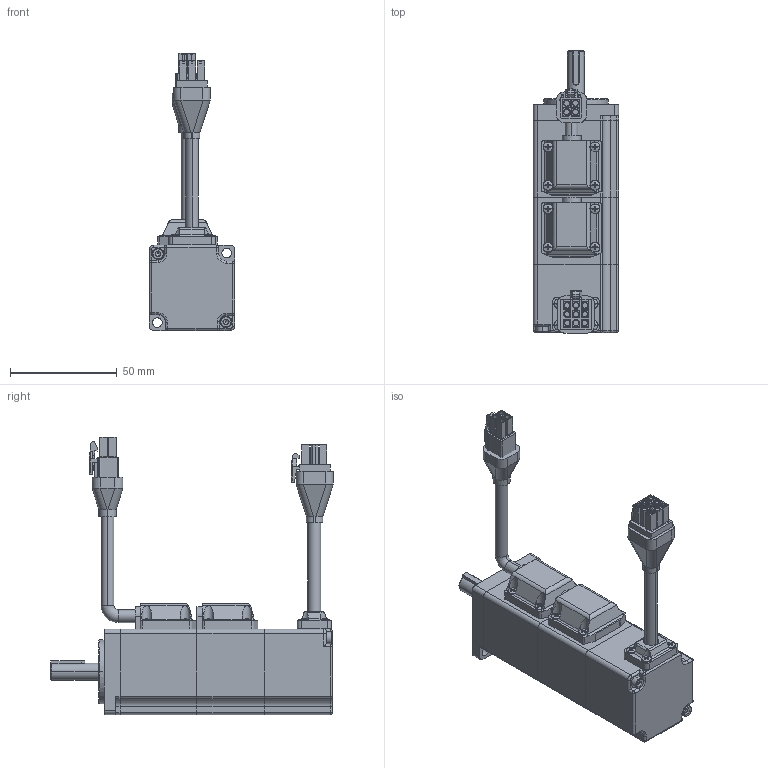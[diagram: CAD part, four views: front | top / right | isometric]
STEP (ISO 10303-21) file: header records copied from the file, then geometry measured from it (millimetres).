
FILE_DESCRIPTION (( 'STEP AP203' ), '1' );
FILE_NAME ('L-50+brake.STEP', '2019-08-21T06:43:03', ( '1' ), ( 'MideaGroup IT' ), 'SwSTEP 2.0', 'SolidWorks 2012', '' );
FILE_SCHEMA (( 'CONFIG_CONTROL_DESIGN' ));
Length unit declared in the file: millimetre
Products named in the file (35): L-50+brake; 雄薯盄揤裔郪璃; 价陬儂褲; 煦极宒晤鎢ん源偶; R40瑩; 蛌赽軞傖; Rolling bearings 609 GB 276-94_Rolling bearings 609 GB 276-94; 萇儂粣; 晤鎢ん裔軞傖; M3X28_GB_FASTENER_SCREWS_HSHCS M3X25-C; 晤鎢ん陓瘍盄; 毀嚏盄揤裔郪璃; 毀嚏盄傷赽揤裔; 晤鎢ん盄傷赽; 晤鎢ん盄揤裔躇猾; 晤鎢ん盄揤裔; 綴裔; ヶ傷裔蚾饜极; 内衬钢圈; 嘎殤蚐猾; ǰOȦ33x1; M3X10_GB_FASTENER_SCREWS_HSHCS M3X10-C; ヶ傷裔; 隅赽郪璃; M2.5X4_GB_CROSS_SCREWS_TYPE3 M2.5X8-8-N; 垫片2.5_GB_FASTENER_WASHER_SMWC 2.5; 傷赽; 雄薯盄傷赽裔; M2.5X5_GB_CROSS_SCREWS_TYPE3 M2.5X8-8-N; 雄薯盄; 雄薯盄傷赽; 雄薯盄躇猾菜; 雄薯盄揤裔; 儂褲
Assembly tree (50 placements, depth 4):
  L-50+brake
    隅赽郪璃
      儂褲
      雄薯盄揤裔郪璃
        雄薯盄揤裔
        雄薯盄躇猾菜
        雄薯盄傷赽
        雄薯盄
        M2.5X5_GB_CROSS_SCREWS_TYPE3 M2.5X8-8-N  x4
        雄薯盄傷赽裔
      傷赽
      垫片2.5_GB_FASTENER_WASHER_SMWC 2.5
      M2.5X4_GB_CROSS_SCREWS_TYPE3 M2.5X8-8-N
    ヶ傷裔蚾饜极
      ヶ傷裔
      M3X10_GB_FASTENER_SCREWS_HSHCS M3X10-C  x2
      ǰOȦ33x1
      嘎殤蚐猾
      内衬钢圈
    晤鎢ん裔軞傖
      綴裔
      毀嚏盄揤裔郪璃
        晤鎢ん盄揤裔
        晤鎢ん盄揤裔躇猾
        晤鎢ん盄傷赽
        M2.5X5_GB_CROSS_SCREWS_TYPE3 M2.5X8-8-N  x4
        毀嚏盄傷赽揤裔
      晤鎢ん陓瘍盄
      M3X28_GB_FASTENER_SCREWS_HSHCS M3X25-C  x2
    煦极宒晤鎢ん源偶
      蛌赽軞傖
        萇儂粣
        Rolling bearings 609 GB 276-94_Rolling bearings 609 GB 276-94
      R40瑩
    价陬儂褲
    雄薯盄揤裔郪璃
      雄薯盄揤裔
      雄薯盄躇猾菜
      雄薯盄
      M2.5X5_GB_CROSS_SCREWS_TYPE3 M2.5X8-8-N  x4
Bounding box: 40 x 132.37 x 129.8 mm (x, y, z)
Volume: 86723.7 mm3; surface area: 75370.7 mm2
Topology: 46 solids, 79 shells, 1725 faces, 4777 edges, 3139 vertices
Faces by surface type: plane 803, cylinder 631, torus 98, cone 97, sphere 58, bspline 38
Entity records: 50121 total; most frequent: CARTESIAN_POINT 14178, DIRECTION 6758, ORIENTED_EDGE 6429, EDGE_CURVE 3409, AXIS2_PLACEMENT_3D 2475, VERTEX_POINT 2253, VECTOR 1808, LINE 1808
